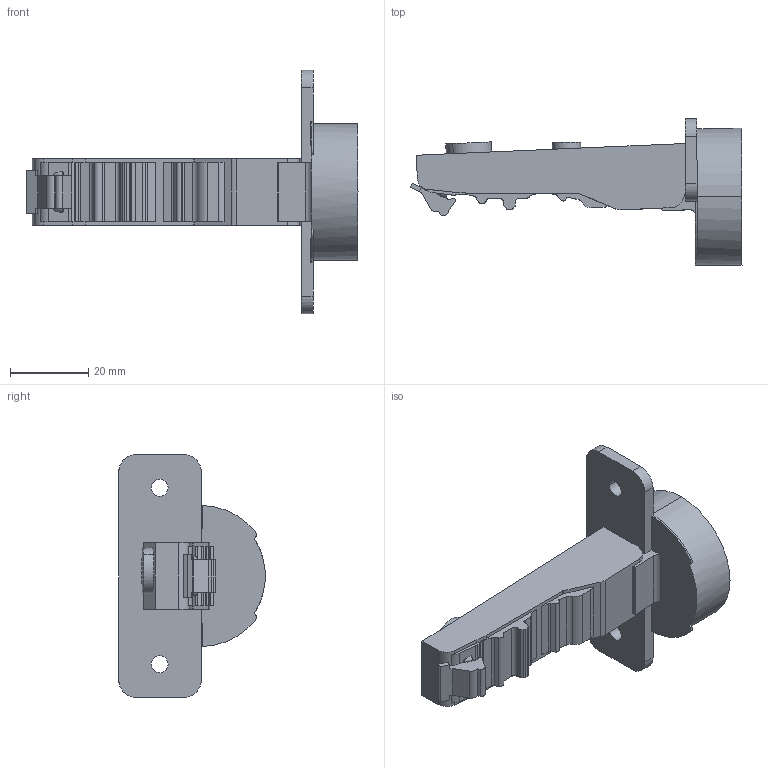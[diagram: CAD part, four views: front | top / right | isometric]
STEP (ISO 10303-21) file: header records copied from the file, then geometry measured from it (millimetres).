
FILE_DESCRIPTION (( 'STEP AP214' ), '1' );
FILE_NAME ('C82A615FA-Close.STEP', '2025-07-21T08:27:57', ( '微软用户' ), ( '微软中国' ), 'SwSTEP 2.0', 'SolidWorks 2021', '' );
FILE_SCHEMA (( 'AUTOMOTIVE_DESIGN' ));
Length unit declared in the file: millimetre
Products named in the file (1): C82A615FA-Close
Bounding box: 84.65 x 37.32 x 62 mm (x, y, z)
Volume: 30927.6 mm3; surface area: 9802 mm2
Topology: 1 solids, 1 shells, 141 faces, 409 edges, 272 vertices
Faces by surface type: plane 69, cylinder 60, bspline 8, torus 4
Entity records: 4999 total; most frequent: CARTESIAN_POINT 1201, ORIENTED_EDGE 818, DIRECTION 777, EDGE_CURVE 409, VERTEX_POINT 272, AXIS2_PLACEMENT_3D 264, VECTOR 249, LINE 249
